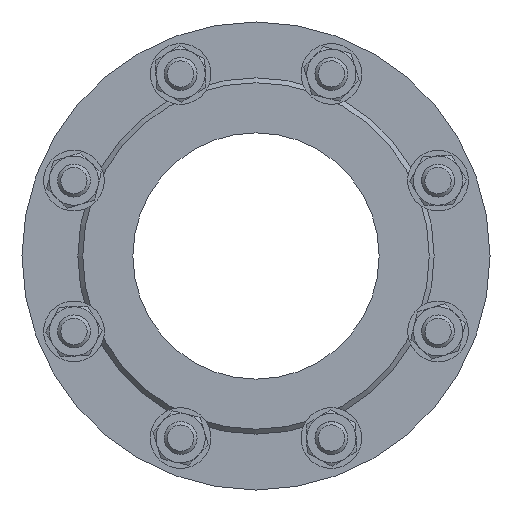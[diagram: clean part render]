
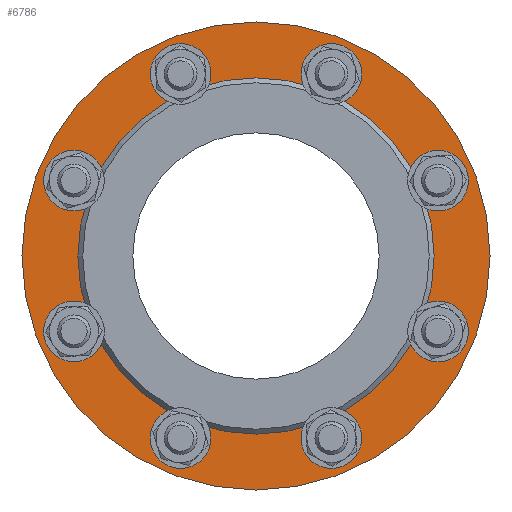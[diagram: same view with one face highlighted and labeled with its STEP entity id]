
A CAD part, left-side view. The second image highlights one B-rep face of the part: STEP entity #6786.
In plain terms, the highlighted planar face has unit normal (-1, 0, 0).
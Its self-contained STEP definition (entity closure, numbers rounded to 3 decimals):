
#266 = CIRCLE ( 'NONE', #4157, 10. ) ;
#282 = CARTESIAN_POINT ( 'NONE',  ( -58., -110.866, 35.922 ) ) ;
#362 = AXIS2_PLACEMENT_3D ( 'NONE', #10000, #6062, #15426 ) ;
#825 = EDGE_CURVE ( 'NONE', #29090, #29090, #266, .T. ) ;
#1074 = VERTEX_POINT ( 'NONE', #10307 ) ;
#1190 = ORIENTED_EDGE ( 'NONE', *, *, #16266, .F. ) ;
#2465 = DIRECTION ( 'NONE',  ( 0., 0., -1. ) ) ;
#2581 = EDGE_LOOP ( 'NONE', ( #4412 ) ) ;
#2712 = CARTESIAN_POINT ( 'NONE',  ( -58., -142.5, 0. ) ) ;
#2874 = VERTEX_POINT ( 'NONE', #2712 ) ;
#2983 = EDGE_LOOP ( 'NONE', ( #10061 ) ) ;
#3020 = VERTEX_POINT ( 'NONE', #27978 ) ;
#3084 = CARTESIAN_POINT ( 'NONE',  ( -58., 110.866, 45.922 ) ) ;
#3591 = EDGE_LOOP ( 'NONE', ( #13034 ) ) ;
#3894 = ORIENTED_EDGE ( 'NONE', *, *, #17420, .F. ) ;
#3956 = VERTEX_POINT ( 'NONE', #13169 ) ;
#4102 = CIRCLE ( 'NONE', #22469, 10. ) ;
#4157 = AXIS2_PLACEMENT_3D ( 'NONE', #27519, #7093, #16305 ) ;
#4412 = ORIENTED_EDGE ( 'NONE', *, *, #24855, .F. ) ;
#5141 = FACE_BOUND ( 'NONE', #9488, .T. ) ;
#5170 = AXIS2_PLACEMENT_3D ( 'NONE', #18227, #25057, #17778 ) ;
#5194 = AXIS2_PLACEMENT_3D ( 'NONE', #26630, #5611, #6055 ) ;
#5611 = DIRECTION ( 'NONE',  ( -1., 0., 0. ) ) ;
#6055 = DIRECTION ( 'NONE',  ( 0., 0., -1. ) ) ;
#6062 = DIRECTION ( 'NONE',  ( -1., 0., 0. ) ) ;
#6105 = DIRECTION ( 'NONE',  ( -1., 0., 0. ) ) ;
#6237 = AXIS2_PLACEMENT_3D ( 'NONE', #3084, #16851, #9592 ) ;
#6399 = EDGE_CURVE ( 'NONE', #8969, #8969, #21259, .T. ) ;
#6487 = CARTESIAN_POINT ( 'NONE',  ( -58., -45.922, 110.866 ) ) ;
#6579 = CARTESIAN_POINT ( 'NONE',  ( -58., -110.866, -45.922 ) ) ;
#6786 = ADVANCED_FACE ( 'NONE', ( #28578, #16475, #26175, #25720, #9979, #21792, #9675, #5141, #14190, #25863 ), #28432, .F. ) ;
#6967 = CARTESIAN_POINT ( 'NONE',  ( -58., -108.5, 0. ) ) ;
#7093 = DIRECTION ( 'NONE',  ( -1., 0., 0. ) ) ;
#7617 = EDGE_LOOP ( 'NONE', ( #1190 ) ) ;
#7652 = CIRCLE ( 'NONE', #13924, 10. ) ;
#7851 = CARTESIAN_POINT ( 'NONE',  ( -58., 0., 142.5 ) ) ;
#8195 = EDGE_LOOP ( 'NONE', ( #23261 ) ) ;
#8969 = VERTEX_POINT ( 'NONE', #13349 ) ;
#9165 = ORIENTED_EDGE ( 'NONE', *, *, #16437, .F. ) ;
#9488 = EDGE_LOOP ( 'NONE', ( #3894 ) ) ;
#9592 = DIRECTION ( 'NONE',  ( 0., 0., -1. ) ) ;
#9675 = FACE_BOUND ( 'NONE', #2581, .T. ) ;
#9979 = FACE_BOUND ( 'NONE', #2983, .T. ) ;
#10000 = CARTESIAN_POINT ( 'NONE',  ( -58., 45.922, 110.866 ) ) ;
#10061 = ORIENTED_EDGE ( 'NONE', *, *, #26673, .F. ) ;
#10307 = CARTESIAN_POINT ( 'NONE',  ( -58., 110.866, 35.922 ) ) ;
#10541 = EDGE_LOOP ( 'NONE', ( #18279 ) ) ;
#10567 = CARTESIAN_POINT ( 'NONE',  ( -58., -45.922, -110.866 ) ) ;
#11457 = DIRECTION ( 'NONE',  ( 0., 0., -1. ) ) ;
#11784 = VERTEX_POINT ( 'NONE', #282 ) ;
#11840 = CIRCLE ( 'NONE', #14251, 142.5 ) ;
#12690 = VERTEX_POINT ( 'NONE', #24223 ) ;
#12951 = CIRCLE ( 'NONE', #362, 10. ) ;
#12964 = ORIENTED_EDGE ( 'NONE', *, *, #28283, .F. ) ;
#13034 = ORIENTED_EDGE ( 'NONE', *, *, #21899, .T. ) ;
#13169 = CARTESIAN_POINT ( 'NONE',  ( -58., 45.922, 100.866 ) ) ;
#13314 = CARTESIAN_POINT ( 'NONE',  ( -58., -110.866, -55.922 ) ) ;
#13349 = CARTESIAN_POINT ( 'NONE',  ( -58., -45.922, 100.866 ) ) ;
#13924 = AXIS2_PLACEMENT_3D ( 'NONE', #10567, #19806, #29901 ) ;
#14190 = FACE_BOUND ( 'NONE', #18058, .T. ) ;
#14251 = AXIS2_PLACEMENT_3D ( 'NONE', #27674, #20436, #18463 ) ;
#14348 = CIRCLE ( 'NONE', #5194, 10. ) ;
#15426 = DIRECTION ( 'NONE',  ( 0., 0., -1. ) ) ;
#15773 = EDGE_CURVE ( 'NONE', #3956, #3956, #12951, .T. ) ;
#16266 = EDGE_CURVE ( 'NONE', #1074, #1074, #21678, .T. ) ;
#16305 = DIRECTION ( 'NONE',  ( 0., 0., -1. ) ) ;
#16437 = EDGE_CURVE ( 'NONE', #20585, #20585, #29870, .T. ) ;
#16475 = FACE_BOUND ( 'NONE', #7617, .T. ) ;
#16851 = DIRECTION ( 'NONE',  ( -1., 0., 0. ) ) ;
#17077 = DIRECTION ( 'NONE',  ( 0., 1., 0. ) ) ;
#17420 = EDGE_CURVE ( 'NONE', #20442, #20442, #4102, .T. ) ;
#17447 = DIRECTION ( 'NONE',  ( 0., -1., 0. ) ) ;
#17778 = DIRECTION ( 'NONE',  ( 0., 0., -1. ) ) ;
#18058 = EDGE_LOOP ( 'NONE', ( #9165 ) ) ;
#18227 = CARTESIAN_POINT ( 'NONE',  ( -58., -110.866, 45.922 ) ) ;
#18279 = ORIENTED_EDGE ( 'NONE', *, *, #825, .F. ) ;
#18463 = DIRECTION ( 'NONE',  ( 0., -1., 0. ) ) ;
#19370 = AXIS2_PLACEMENT_3D ( 'NONE', #7851, #23766, #17077 ) ;
#19806 = DIRECTION ( 'NONE',  ( -1., 0., 0. ) ) ;
#20353 = ORIENTED_EDGE ( 'NONE', *, *, #6399, .F. ) ;
#20436 = DIRECTION ( 'NONE',  ( -1., 0., 0. ) ) ;
#20442 = VERTEX_POINT ( 'NONE', #13314 ) ;
#20585 = VERTEX_POINT ( 'NONE', #6967 ) ;
#20713 = AXIS2_PLACEMENT_3D ( 'NONE', #22301, #6105, #17447 ) ;
#21031 = EDGE_LOOP ( 'NONE', ( #12964 ) ) ;
#21259 = CIRCLE ( 'NONE', #28506, 10. ) ;
#21678 = CIRCLE ( 'NONE', #6237, 10. ) ;
#21792 = FACE_BOUND ( 'NONE', #21031, .T. ) ;
#21899 = EDGE_CURVE ( 'NONE', #2874, #2874, #11840, .T. ) ;
#22301 = CARTESIAN_POINT ( 'NONE',  ( -58., 0., 0. ) ) ;
#22469 = AXIS2_PLACEMENT_3D ( 'NONE', #6579, #27289, #2465 ) ;
#23261 = ORIENTED_EDGE ( 'NONE', *, *, #15773, .F. ) ;
#23766 = DIRECTION ( 'NONE',  ( 1., 0., 0. ) ) ;
#24223 = CARTESIAN_POINT ( 'NONE',  ( -58., -45.922, -120.866 ) ) ;
#24855 = EDGE_CURVE ( 'NONE', #3020, #3020, #14348, .T. ) ;
#25057 = DIRECTION ( 'NONE',  ( -1., 0., 0. ) ) ;
#25720 = FACE_BOUND ( 'NONE', #10541, .T. ) ;
#25863 = FACE_OUTER_BOUND ( 'NONE', #3591, .T. ) ;
#26175 = FACE_BOUND ( 'NONE', #26631, .T. ) ;
#26630 = CARTESIAN_POINT ( 'NONE',  ( -58., 110.866, -45.922 ) ) ;
#26631 = EDGE_LOOP ( 'NONE', ( #20353 ) ) ;
#26673 = EDGE_CURVE ( 'NONE', #11784, #11784, #29325, .T. ) ;
#27289 = DIRECTION ( 'NONE',  ( -1., 0., 0. ) ) ;
#27519 = CARTESIAN_POINT ( 'NONE',  ( -58., 45.922, -110.866 ) ) ;
#27644 = DIRECTION ( 'NONE',  ( -1., 0., 0. ) ) ;
#27674 = CARTESIAN_POINT ( 'NONE',  ( -58., 0., 0. ) ) ;
#27978 = CARTESIAN_POINT ( 'NONE',  ( -58., 110.866, -55.922 ) ) ;
#28283 = EDGE_CURVE ( 'NONE', #12690, #12690, #7652, .T. ) ;
#28432 = PLANE ( 'NONE',  #19370 ) ;
#28506 = AXIS2_PLACEMENT_3D ( 'NONE', #6487, #27644, #11457 ) ;
#28578 = FACE_BOUND ( 'NONE', #8195, .T. ) ;
#28791 = CARTESIAN_POINT ( 'NONE',  ( -58., 45.922, -120.866 ) ) ;
#29090 = VERTEX_POINT ( 'NONE', #28791 ) ;
#29325 = CIRCLE ( 'NONE', #5170, 10. ) ;
#29870 = CIRCLE ( 'NONE', #20713, 108.5 ) ;
#29901 = DIRECTION ( 'NONE',  ( 0., 0., -1. ) ) ;
